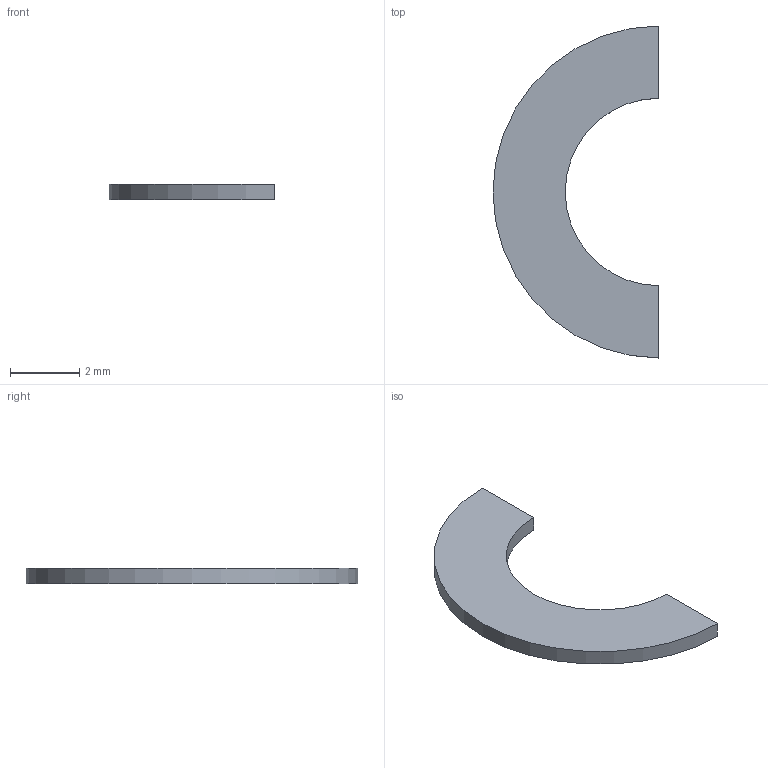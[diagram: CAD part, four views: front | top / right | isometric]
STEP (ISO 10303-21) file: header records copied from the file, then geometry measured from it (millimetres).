
FILE_DESCRIPTION(('Open CASCADE Model'),'2;1');
FILE_NAME('Open CASCADE Shape Model','2026-09-24T19:52:59',('Author'),( 'Open CASCADE'),'Open CASCADE STEP processor 7.8','Open CASCADE 7.8' ,'Unknown');
FILE_SCHEMA(('AUTOMOTIVE_DESIGN { 1 0 10303 214 1 1 1 1 }'));
Length unit declared in the file: millimetre
Products named in the file (1): Open CASCADE STEP translator 7.8 45
Bounding box: 4.8 x 9.6 x 0.45 mm (x, y, z)
Volume: 11.1 mm3; surface area: 61.8 mm2
Topology: 1 solids, 1 shells, 6 faces, 12 edges, 8 vertices
Faces by surface type: plane 4, cylinder 2
Entity records: 310 total; most frequent: CARTESIAN_POINT 67, DIRECTION 38, ORIENTED_EDGE 24, PCURVE 24, DEFINITIONAL_REPRESENTATION 24, B_SPLINE_CURVE_WITH_KNOTS 16, EDGE_CURVE 12, SURFACE_CURVE 12
